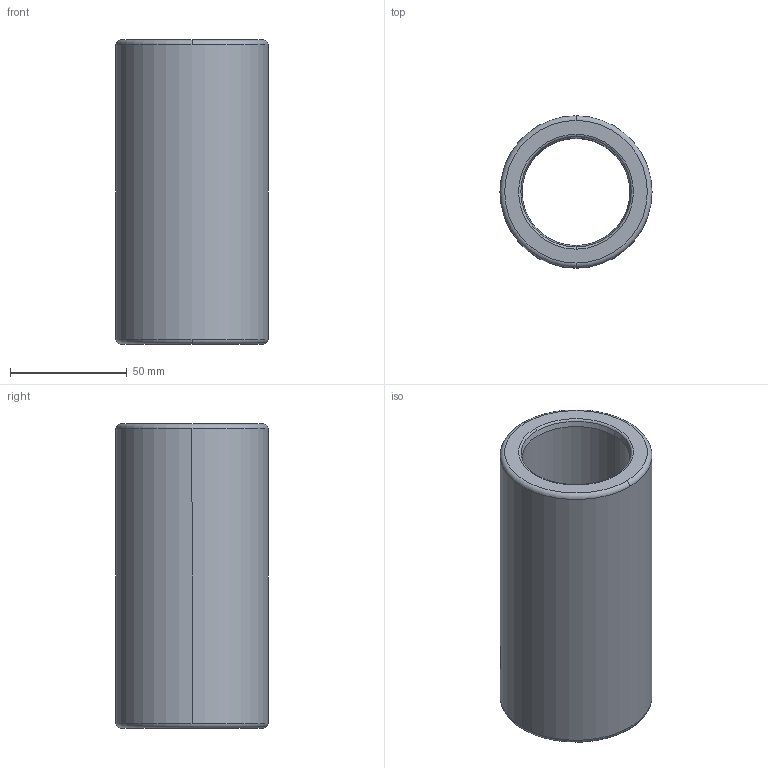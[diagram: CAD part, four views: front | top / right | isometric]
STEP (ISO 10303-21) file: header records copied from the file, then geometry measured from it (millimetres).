
FILE_DESCRIPTION((''),'2;1');
FILE_NAME('B30_038_130.stp','2009-01-12T10:47:13',(''),(''),'Mechanical Desktop 2009','Mechanical Desktop 2009',', , ');
FILE_SCHEMA(('CONFIG_CONTROL_DESIGN'));
Length unit declared in the file: millimetre
Products named in the file (2): Product; blmdl1
Assembly tree (1 placements, depth 2):
  Product
    blmdl1
Bounding box: 64.99 x 64.99 x 130 mm (x, y, z)
Volume: 214776.8 mm3; surface area: 48014.9 mm2
Topology: 1 solids, 1 shells, 18 faces, 48 edges, 32 vertices
Faces by surface type: torus 8, cylinder 4, cone 4, plane 2
Entity records: 705 total; most frequent: DIRECTION 128, CARTESIAN_POINT 100, ORIENTED_EDGE 96, AXIS2_PLACEMENT_3D 60, EDGE_CURVE 48, CIRCLE 40, VERTEX_POINT 32, EDGE_LOOP 20
